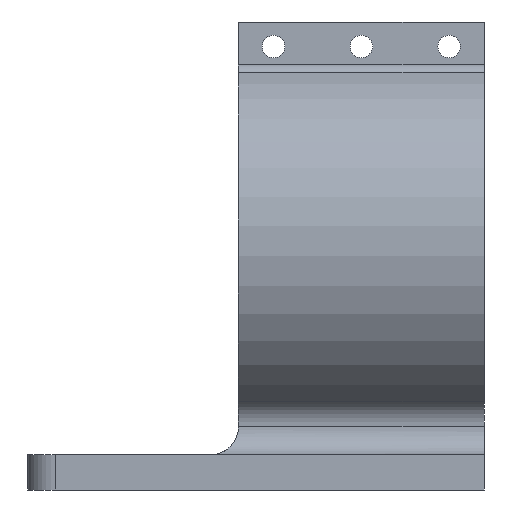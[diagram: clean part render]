
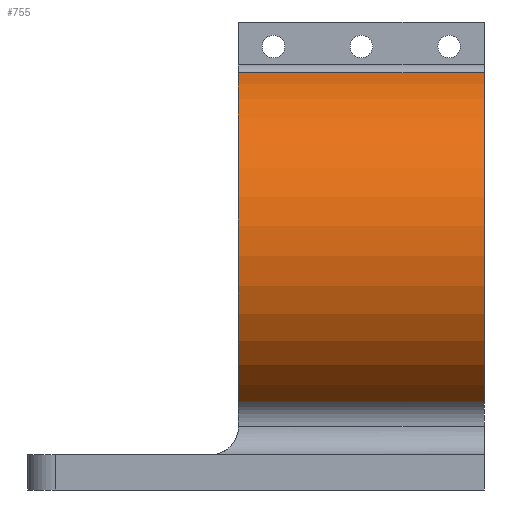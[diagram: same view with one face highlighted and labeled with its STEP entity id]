
A CAD part, left-side view. The second image highlights one B-rep face of the part: STEP entity #755.
In plain terms, the highlighted cylindrical face has radius 32.35 mm (diameter 64.7 mm), a partial arc.
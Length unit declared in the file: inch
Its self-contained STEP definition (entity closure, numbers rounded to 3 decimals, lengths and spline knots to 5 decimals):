
#46 = DIRECTION ( 'NONE',  ( 0., 1., 0. ) ) ;
#67 = EDGE_CURVE ( 'NONE', #1190, #1780, #315, .T. ) ;
#81 = EDGE_LOOP ( 'NONE', ( #1591, #286, #983, #1854 ) ) ;
#99 = VERTEX_POINT ( 'NONE', #264 ) ;
#193 = LINE ( 'NONE', #565, #1342 ) ;
#219 = DIRECTION ( 'NONE',  ( 0., -1., 0. ) ) ;
#264 = CARTESIAN_POINT ( 'NONE',  ( 0.94482, -3.25, 2.9694 ) ) ;
#286 = ORIENTED_EDGE ( 'NONE', *, *, #1795, .T. ) ;
#315 = LINE ( 'NONE', #993, #1825 ) ;
#325 = CARTESIAN_POINT ( 'NONE',  ( 0.7075, -1.5, 0.62924 ) ) ;
#329 = EDGE_CURVE ( 'NONE', #1190, #1756, #627, .T. ) ;
#397 = CYLINDRICAL_SURFACE ( 'NONE', #1658, 1.27362 ) ;
#565 = CARTESIAN_POINT ( 'NONE',  ( 0.94482, 2.32622, 2.9694 ) ) ;
#575 = DIRECTION ( 'NONE',  ( 0., -1., 0. ) ) ;
#627 = CIRCLE ( 'NONE', #1722, 1.27362 ) ;
#649 = CARTESIAN_POINT ( 'NONE',  ( 1.3125, 2.32622, 1.75 ) ) ;
#668 = CARTESIAN_POINT ( 'NONE',  ( 1.3125, -3.25, 1.75 ) ) ;
#699 = CARTESIAN_POINT ( 'NONE',  ( 0.7075, -3.25, 0.62924 ) ) ;
#709 = DIRECTION ( 'NONE',  ( 0., 1., 0. ) ) ;
#754 = DIRECTION ( 'NONE',  ( 0., 0., -1. ) ) ;
#755 = ADVANCED_FACE ( 'NONE', ( #818 ), #397, .T. ) ;
#781 = DIRECTION ( 'NONE',  ( 0., -1., 0. ) ) ;
#818 = FACE_OUTER_BOUND ( 'NONE', #81, .T. ) ;
#853 = CIRCLE ( 'NONE', #1518, 1.27362 ) ;
#919 = DIRECTION ( 'NONE',  ( 0., 0., -1. ) ) ;
#983 = ORIENTED_EDGE ( 'NONE', *, *, #329, .F. ) ;
#993 = CARTESIAN_POINT ( 'NONE',  ( 0.7075, 2.32622, 0.62924 ) ) ;
#1064 = CARTESIAN_POINT ( 'NONE',  ( 1.3125, -1.5, 1.75 ) ) ;
#1085 = EDGE_CURVE ( 'NONE', #99, #1780, #853, .T. ) ;
#1190 = VERTEX_POINT ( 'NONE', #325 ) ;
#1342 = VECTOR ( 'NONE', #709, 39.37008 ) ;
#1512 = DIRECTION ( 'NONE',  ( 0., 0., -1. ) ) ;
#1518 = AXIS2_PLACEMENT_3D ( 'NONE', #668, #219, #754 ) ;
#1591 = ORIENTED_EDGE ( 'NONE', *, *, #1085, .F. ) ;
#1658 = AXIS2_PLACEMENT_3D ( 'NONE', #649, #781, #1512 ) ;
#1717 = CARTESIAN_POINT ( 'NONE',  ( 0.94482, -1.5, 2.9694 ) ) ;
#1722 = AXIS2_PLACEMENT_3D ( 'NONE', #1064, #46, #919 ) ;
#1756 = VERTEX_POINT ( 'NONE', #1717 ) ;
#1780 = VERTEX_POINT ( 'NONE', #699 ) ;
#1795 = EDGE_CURVE ( 'NONE', #99, #1756, #193, .T. ) ;
#1825 = VECTOR ( 'NONE', #575, 39.37008 ) ;
#1854 = ORIENTED_EDGE ( 'NONE', *, *, #67, .T. ) ;
